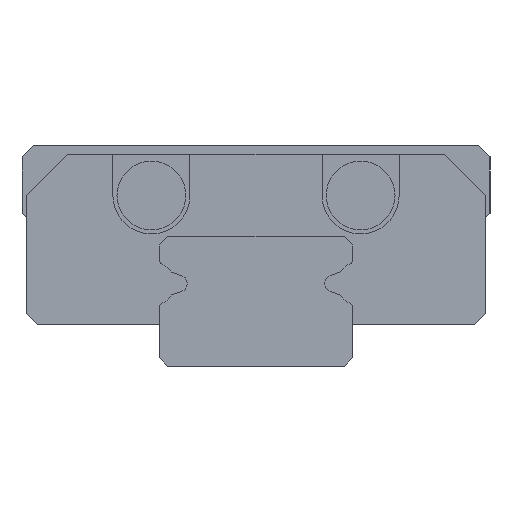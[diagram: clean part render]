
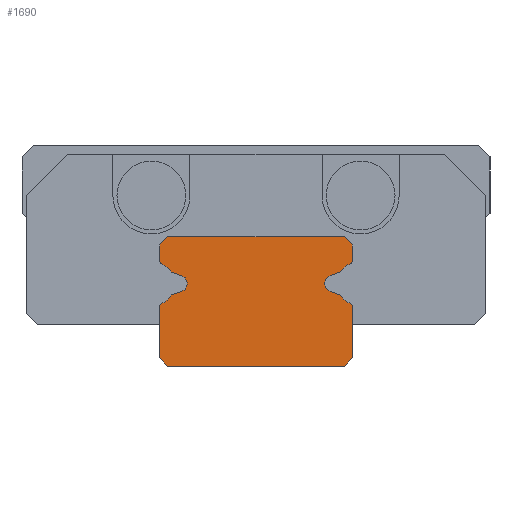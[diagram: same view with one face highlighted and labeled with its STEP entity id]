
A CAD part, left-side view. The second image highlights one B-rep face of the part: STEP entity #1690.
In plain terms, the highlighted planar face has unit normal (-1, 0, 0).
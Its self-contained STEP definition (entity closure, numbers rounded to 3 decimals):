
#868=CARTESIAN_POINT('',(0.0,3.5,4.4));
#869=VERTEX_POINT('',#868);
#876=CARTESIAN_POINT('',(0.0,3.2,4.7));
#877=VERTEX_POINT('',#876);
#878=CARTESIAN_POINT('',(0.0,3.5,4.4));
#879=DIRECTION('',(0.0,-0.707,0.707));
#880=VECTOR('',#879,0.424);
#881=LINE('',#878,#880);
#882=EDGE_CURVE('',#869,#877,#881,.T.);
#906=CARTESIAN_POINT('',(0.0,3.5,3.829));
#907=VERTEX_POINT('',#906);
#914=CARTESIAN_POINT('',(0.0,3.5,3.829));
#915=DIRECTION('',(0.0,0.0,1.0));
#916=VECTOR('',#915,0.571);
#917=LINE('',#914,#916);
#918=EDGE_CURVE('',#907,#869,#917,.T.);
#938=CARTESIAN_POINT('',(0.0,3.434,3.728));
#939=VERTEX_POINT('',#938);
#946=CARTESIAN_POINT('',(0.0,3.39,3.829));
#947=DIRECTION('',(1.,0.0,0.0));
#948=DIRECTION('',(0.0,0.398,-0.917));
#949=AXIS2_PLACEMENT_3D('',#946,#947,#948);
#950=CIRCLE('',#949,0.11);
#951=EDGE_CURVE('',#939,#907,#950,.T.);
#971=CARTESIAN_POINT('',(0.0,3.074,3.416));
#972=VERTEX_POINT('',#971);
#979=CARTESIAN_POINT('',(0.0,3.75,3.));
#980=DIRECTION('',(-1.,0.0,0.0));
#981=DIRECTION('',(0.0,0.398,-0.917));
#982=AXIS2_PLACEMENT_3D('',#979,#980,#981);
#983=CIRCLE('',#982,0.794);
#984=EDGE_CURVE('',#972,#939,#983,.T.);
#1003=CARTESIAN_POINT('',(0.0,2.699,3.283));
#1004=VERTEX_POINT('',#1003);
#1011=CARTESIAN_POINT('',(0.0,2.699,3.283));
#1012=DIRECTION('',(0.0,0.942,0.336));
#1013=VECTOR('',#1012,0.398);
#1014=LINE('',#1011,#1013);
#1015=EDGE_CURVE('',#1004,#972,#1014,.T.);
#1035=CARTESIAN_POINT('',(0.0,2.699,2.717));
#1036=VERTEX_POINT('',#1035);
#1043=CARTESIAN_POINT('',(0.0,2.8,3.));
#1044=DIRECTION('',(-1.,0.0,0.0));
#1045=DIRECTION('',(0.0,0.336,-0.942));
#1046=AXIS2_PLACEMENT_3D('',#1043,#1044,#1045);
#1047=CIRCLE('',#1046,0.3);
#1048=EDGE_CURVE('',#1036,#1004,#1047,.T.);
#1067=CARTESIAN_POINT('',(0.0,3.074,2.584));
#1068=VERTEX_POINT('',#1067);
#1075=CARTESIAN_POINT('',(0.0,3.074,2.584));
#1076=DIRECTION('',(0.0,-0.942,0.336));
#1077=VECTOR('',#1076,0.398);
#1078=LINE('',#1075,#1077);
#1079=EDGE_CURVE('',#1068,#1036,#1078,.T.);
#1099=CARTESIAN_POINT('',(0.0,3.434,2.272));
#1100=VERTEX_POINT('',#1099);
#1107=CARTESIAN_POINT('',(0.0,3.75,3.));
#1108=DIRECTION('',(-1.0,0.0,0.0));
#1109=DIRECTION('',(0.0,0.851,0.525));
#1110=AXIS2_PLACEMENT_3D('',#1107,#1108,#1109);
#1111=CIRCLE('',#1110,0.794);
#1112=EDGE_CURVE('',#1100,#1068,#1111,.T.);
#1132=CARTESIAN_POINT('',(0.0,3.5,2.171));
#1133=VERTEX_POINT('',#1132);
#1140=CARTESIAN_POINT('',(0.0,3.39,2.171));
#1141=DIRECTION('',(1.0,0.0,0.0));
#1142=DIRECTION('',(0.0,1.,0.));
#1143=AXIS2_PLACEMENT_3D('',#1140,#1141,#1142);
#1144=CIRCLE('',#1143,0.11);
#1145=EDGE_CURVE('',#1133,#1100,#1144,.T.);
#1164=CARTESIAN_POINT('',(0.0,3.5,0.3));
#1165=VERTEX_POINT('',#1164);
#1172=CARTESIAN_POINT('',(0.0,3.5,0.3));
#1173=DIRECTION('',(0.0,0.0,1.0));
#1174=VECTOR('',#1173,1.871);
#1175=LINE('',#1172,#1174);
#1176=EDGE_CURVE('',#1165,#1133,#1175,.T.);
#1195=CARTESIAN_POINT('',(0.0,3.2,0.));
#1196=VERTEX_POINT('',#1195);
#1203=CARTESIAN_POINT('',(0.0,3.2,0.));
#1204=DIRECTION('',(0.0,0.707,0.707));
#1205=VECTOR('',#1204,0.424);
#1206=LINE('',#1203,#1205);
#1207=EDGE_CURVE('',#1196,#1165,#1206,.T.);
#1226=CARTESIAN_POINT('',(0.0,-3.2,0.));
#1227=VERTEX_POINT('',#1226);
#1234=CARTESIAN_POINT('',(0.0,-3.2,0.));
#1235=DIRECTION('',(0.0,1.0,0.0));
#1236=VECTOR('',#1235,6.4);
#1237=LINE('',#1234,#1236);
#1238=EDGE_CURVE('',#1227,#1196,#1237,.T.);
#1278=CARTESIAN_POINT('',(0.0,-3.5,0.3));
#1279=VERTEX_POINT('',#1278);
#1286=CARTESIAN_POINT('',(0.0,-3.5,0.3));
#1287=DIRECTION('',(0.0,0.707,-0.707));
#1288=VECTOR('',#1287,0.424);
#1289=LINE('',#1286,#1288);
#1290=EDGE_CURVE('',#1279,#1227,#1289,.T.);
#1309=CARTESIAN_POINT('',(0.0,-3.5,2.171));
#1310=VERTEX_POINT('',#1309);
#1317=CARTESIAN_POINT('',(0.0,-3.5,2.171));
#1318=DIRECTION('',(0.0,0.0,-1.0));
#1319=VECTOR('',#1318,1.871);
#1320=LINE('',#1317,#1319);
#1321=EDGE_CURVE('',#1310,#1279,#1320,.T.);
#1341=CARTESIAN_POINT('',(0.0,-3.434,2.272));
#1342=VERTEX_POINT('',#1341);
#1349=CARTESIAN_POINT('',(0.0,-3.39,2.171));
#1350=DIRECTION('',(1.,0.0,0.0));
#1351=DIRECTION('',(0.0,-0.398,0.917));
#1352=AXIS2_PLACEMENT_3D('',#1349,#1350,#1351);
#1353=CIRCLE('',#1352,0.11);
#1354=EDGE_CURVE('',#1342,#1310,#1353,.T.);
#1374=CARTESIAN_POINT('',(0.0,-3.08,2.574));
#1375=VERTEX_POINT('',#1374);
#1382=CARTESIAN_POINT('',(0.0,-3.75,3.));
#1383=DIRECTION('',(-1.0,0.0,0.0));
#1384=DIRECTION('',(0.0,-0.398,0.917));
#1385=AXIS2_PLACEMENT_3D('',#1382,#1383,#1384);
#1386=CIRCLE('',#1385,0.794);
#1387=EDGE_CURVE('',#1375,#1342,#1386,.T.);
#1406=CARTESIAN_POINT('',(0.0,-2.694,2.719));
#1407=VERTEX_POINT('',#1406);
#1414=CARTESIAN_POINT('',(0.0,-2.694,2.719));
#1415=DIRECTION('',(0.0,-0.936,-0.353));
#1416=VECTOR('',#1415,0.413);
#1417=LINE('',#1414,#1416);
#1418=EDGE_CURVE('',#1407,#1375,#1417,.T.);
#1438=CARTESIAN_POINT('',(0.0,-2.694,3.281));
#1439=VERTEX_POINT('',#1438);
#1446=CARTESIAN_POINT('',(0.0,-2.8,3.));
#1447=DIRECTION('',(-1.,0.0,0.0));
#1448=DIRECTION('',(0.0,-0.353,0.936));
#1449=AXIS2_PLACEMENT_3D('',#1446,#1447,#1448);
#1450=CIRCLE('',#1449,0.3);
#1451=EDGE_CURVE('',#1439,#1407,#1450,.T.);
#1470=CARTESIAN_POINT('',(0.0,-3.08,3.426));
#1471=VERTEX_POINT('',#1470);
#1478=CARTESIAN_POINT('',(0.0,-3.08,3.426));
#1479=DIRECTION('',(0.0,0.936,-0.353));
#1480=VECTOR('',#1479,0.413);
#1481=LINE('',#1478,#1480);
#1482=EDGE_CURVE('',#1471,#1439,#1481,.T.);
#1502=CARTESIAN_POINT('',(0.0,-3.434,3.728));
#1503=VERTEX_POINT('',#1502);
#1510=CARTESIAN_POINT('',(0.0,-3.75,3.));
#1511=DIRECTION('',(-1.0,0.0,0.0));
#1512=DIRECTION('',(0.0,-0.844,-0.537));
#1513=AXIS2_PLACEMENT_3D('',#1510,#1511,#1512);
#1514=CIRCLE('',#1513,0.794);
#1515=EDGE_CURVE('',#1503,#1471,#1514,.T.);
#1535=CARTESIAN_POINT('',(0.0,-3.5,3.829));
#1536=VERTEX_POINT('',#1535);
#1543=CARTESIAN_POINT('',(0.0,-3.39,3.829));
#1544=DIRECTION('',(1.,0.0,0.0));
#1545=DIRECTION('',(0.0,-1.,0.));
#1546=AXIS2_PLACEMENT_3D('',#1543,#1544,#1545);
#1547=CIRCLE('',#1546,0.11);
#1548=EDGE_CURVE('',#1536,#1503,#1547,.T.);
#1567=CARTESIAN_POINT('',(0.0,-3.5,4.4));
#1568=VERTEX_POINT('',#1567);
#1575=CARTESIAN_POINT('',(0.0,-3.5,4.4));
#1576=DIRECTION('',(0.0,0.0,-1.0));
#1577=VECTOR('',#1576,0.571);
#1578=LINE('',#1575,#1577);
#1579=EDGE_CURVE('',#1568,#1536,#1578,.T.);
#1598=CARTESIAN_POINT('',(0.0,-3.2,4.7));
#1599=VERTEX_POINT('',#1598);
#1606=CARTESIAN_POINT('',(0.0,-3.2,4.7));
#1607=DIRECTION('',(0.0,-0.707,-0.707));
#1608=VECTOR('',#1607,0.424);
#1609=LINE('',#1606,#1608);
#1610=EDGE_CURVE('',#1599,#1568,#1609,.T.);
#1628=CARTESIAN_POINT('',(0.0,3.2,4.7));
#1629=DIRECTION('',(0.0,-1.0,0.0));
#1630=VECTOR('',#1629,6.4);
#1631=LINE('',#1628,#1630);
#1632=EDGE_CURVE('',#877,#1599,#1631,.T.);
#1659=CARTESIAN_POINT('',(0.0,0.001,2.407));
#1660=DIRECTION('',(1.0,0.0,0.0));
#1661=DIRECTION('',(0.0,0.0,-1.0));
#1662=AXIS2_PLACEMENT_3D('',#1659,#1660,#1661);
#1663=PLANE('',#1662);
#1664=ORIENTED_EDGE('',*,*,#1632,.F.);
#1665=ORIENTED_EDGE('',*,*,#882,.F.);
#1666=ORIENTED_EDGE('',*,*,#918,.F.);
#1667=ORIENTED_EDGE('',*,*,#951,.F.);
#1668=ORIENTED_EDGE('',*,*,#984,.F.);
#1669=ORIENTED_EDGE('',*,*,#1015,.F.);
#1670=ORIENTED_EDGE('',*,*,#1048,.F.);
#1671=ORIENTED_EDGE('',*,*,#1079,.F.);
#1672=ORIENTED_EDGE('',*,*,#1112,.F.);
#1673=ORIENTED_EDGE('',*,*,#1145,.F.);
#1674=ORIENTED_EDGE('',*,*,#1176,.F.);
#1675=ORIENTED_EDGE('',*,*,#1207,.F.);
#1676=ORIENTED_EDGE('',*,*,#1238,.F.);
#1677=ORIENTED_EDGE('',*,*,#1290,.F.);
#1678=ORIENTED_EDGE('',*,*,#1321,.F.);
#1679=ORIENTED_EDGE('',*,*,#1354,.F.);
#1680=ORIENTED_EDGE('',*,*,#1387,.F.);
#1681=ORIENTED_EDGE('',*,*,#1418,.F.);
#1682=ORIENTED_EDGE('',*,*,#1451,.F.);
#1683=ORIENTED_EDGE('',*,*,#1482,.F.);
#1684=ORIENTED_EDGE('',*,*,#1515,.F.);
#1685=ORIENTED_EDGE('',*,*,#1548,.F.);
#1686=ORIENTED_EDGE('',*,*,#1579,.F.);
#1687=ORIENTED_EDGE('',*,*,#1610,.F.);
#1688=EDGE_LOOP('',(#1664,#1665,#1666,#1667,#1668,#1669,#1670,#1671,#1672,#1673,#1674,#1675,#1676,#1677,#1678,#1679,#1680,#1681,#1682,#1683,#1684,#1685,#1686,#1687));
#1689=FACE_OUTER_BOUND('',#1688,.T.);
#1690=ADVANCED_FACE('',(#1689),#1663,.F.);
